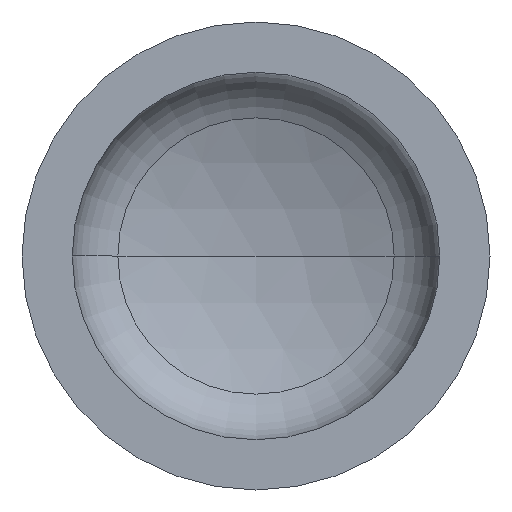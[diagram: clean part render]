
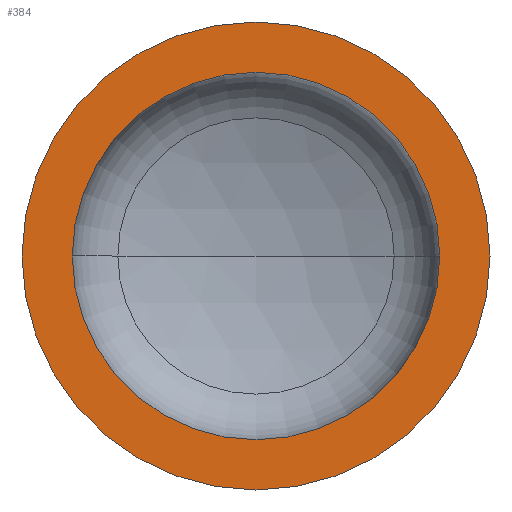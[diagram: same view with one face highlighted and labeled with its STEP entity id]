
A CAD part, front view. The second image highlights one B-rep face of the part: STEP entity #384.
In plain terms, the highlighted planar face has unit normal (0, -1, 0).
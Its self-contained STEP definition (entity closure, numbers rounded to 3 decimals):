
#2 = VERTEX_POINT ( 'NONE', #240 ) ;
#13 = EDGE_LOOP ( 'NONE', ( #30, #83 ) ) ;
#16 = AXIS2_PLACEMENT_3D ( 'NONE', #125, #131, #357 ) ;
#30 = ORIENTED_EDGE ( 'NONE', *, *, #372, .T. ) ;
#37 = VERTEX_POINT ( 'NONE', #265 ) ;
#53 = EDGE_LOOP ( 'NONE', ( #87, #262 ) ) ;
#62 = CIRCLE ( 'NONE', #261, 550. ) ;
#68 = CARTESIAN_POINT ( 'NONE',  ( -550., 0., 0. ) ) ;
#83 = ORIENTED_EDGE ( 'NONE', *, *, #143, .T. ) ;
#87 = ORIENTED_EDGE ( 'NONE', *, *, #147, .F. ) ;
#96 = VERTEX_POINT ( 'NONE', #229 ) ;
#103 = AXIS2_PLACEMENT_3D ( 'NONE', #194, #195, #283 ) ;
#107 = AXIS2_PLACEMENT_3D ( 'NONE', #300, #298, #282 ) ;
#109 = VERTEX_POINT ( 'NONE', #230 ) ;
#125 = CARTESIAN_POINT ( 'NONE',  ( 0., 0., 0. ) ) ;
#131 = DIRECTION ( 'NONE',  ( 0., -1., 0. ) ) ;
#139 = DIRECTION ( 'NONE',  ( 0., -1., 0. ) ) ;
#143 = EDGE_CURVE ( 'NONE', #109, #37, #246, .T. ) ;
#146 = DIRECTION ( 'NONE',  ( 1., 0., 0. ) ) ;
#147 = EDGE_CURVE ( 'NONE', #2, #96, #175, .T. ) ;
#175 = CIRCLE ( 'NONE', #103, 432. ) ;
#194 = CARTESIAN_POINT ( 'NONE',  ( 0., 0., 0. ) ) ;
#195 = DIRECTION ( 'NONE',  ( 0., -1., 0. ) ) ;
#229 = CARTESIAN_POINT ( 'NONE',  ( -432., 0., 0. ) ) ;
#230 = CARTESIAN_POINT ( 'NONE',  ( -550., 0., 0. ) ) ;
#240 = CARTESIAN_POINT ( 'NONE',  ( 432., 0., 0. ) ) ;
#246 = CIRCLE ( 'NONE', #107, 550. ) ;
#251 = DIRECTION ( 'NONE',  ( 0., 1., 0. ) ) ;
#257 = FACE_BOUND ( 'NONE', #53, .T. ) ;
#261 = AXIS2_PLACEMENT_3D ( 'NONE', #291, #139, #146 ) ;
#262 = ORIENTED_EDGE ( 'NONE', *, *, #347, .F. ) ;
#265 = CARTESIAN_POINT ( 'NONE',  ( 550., 0., 0. ) ) ;
#282 = DIRECTION ( 'NONE',  ( 1., 0., 0. ) ) ;
#283 = DIRECTION ( 'NONE',  ( 1., 0., 0. ) ) ;
#291 = CARTESIAN_POINT ( 'NONE',  ( 0., 0., 0. ) ) ;
#298 = DIRECTION ( 'NONE',  ( 0., -1., 0. ) ) ;
#300 = CARTESIAN_POINT ( 'NONE',  ( 0., 0., 0. ) ) ;
#308 = FACE_OUTER_BOUND ( 'NONE', #13, .T. ) ;
#321 = AXIS2_PLACEMENT_3D ( 'NONE', #68, #251, #409 ) ;
#347 = EDGE_CURVE ( 'NONE', #96, #2, #389, .T. ) ;
#348 = PLANE ( 'NONE',  #321 ) ;
#357 = DIRECTION ( 'NONE',  ( 1., 0., 0. ) ) ;
#372 = EDGE_CURVE ( 'NONE', #37, #109, #62, .T. ) ;
#384 = ADVANCED_FACE ( 'NONE', ( #257, #308 ), #348, .F. ) ;
#389 = CIRCLE ( 'NONE', #16, 432. ) ;
#409 = DIRECTION ( 'NONE',  ( -1., 0., 0. ) ) ;
